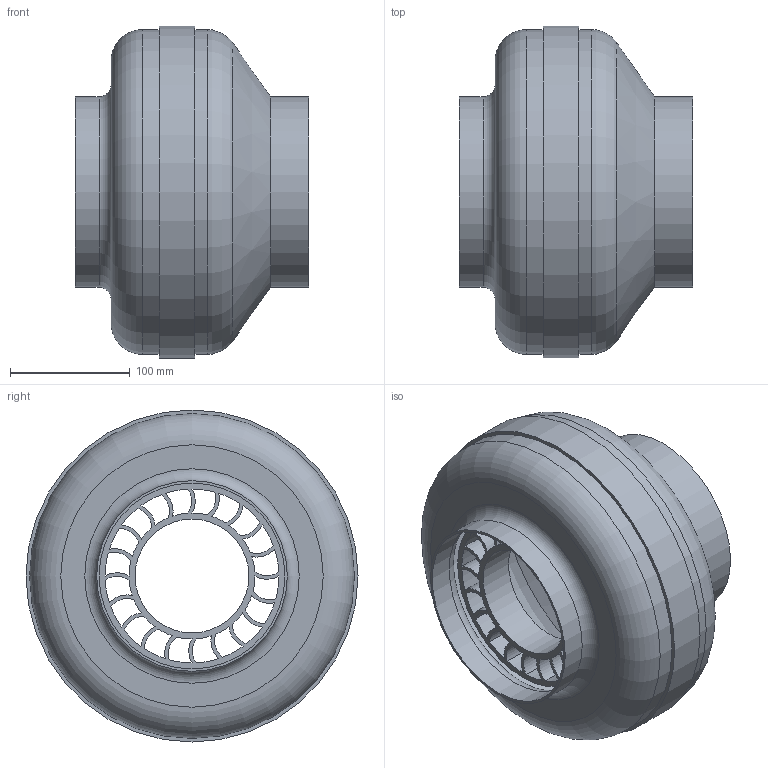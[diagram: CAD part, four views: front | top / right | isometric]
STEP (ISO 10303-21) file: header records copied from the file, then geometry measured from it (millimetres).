
FILE_DESCRIPTION(/* description */ (''),/* implementation_level */ '2;1');
FILE_NAME(/* name */ 'Z:\Output\RR 160 B-05656-020.stp',/* time_stamp */ '2017-05-05T16:58:43+02:00',/* author */ ('Engineering1'),/* organization */ (''),/* preprocessor_version */ 'ST-DEVELOPER v16.5',/* originating_system */ 'Autodesk Inventor 2017',/* authorisation */ '');
FILE_SCHEMA (('AUTOMOTIVE_DESIGN { 1 0 10303 214 3 1 1 }'));
Length unit declared in the file: millimetre
Products named in the file (1): RR-1
Bounding box: 195 x 277 x 277 mm (x, y, z)
Volume: 591504.1 mm3; surface area: 444477.4 mm2
Topology: 2 solids, 2 shells, 106 faces, 286 edges, 188 vertices
Faces by surface type: cylinder 90, plane 8, torus 6, cone 2
Full cylindrical faces by diameter (mm): 95 x1, 155 x3, 159 x2, 267 x1, 271 x2, 277 x1
Entity records: 3441 total; most frequent: DIRECTION 666, CARTESIAN_POINT 559, ORIENTED_EDGE 532, AXIS2_PLACEMENT_3D 293, EDGE_CURVE 266, CIRCLE 186, VERTEX_POINT 186, EDGE_LOOP 172
